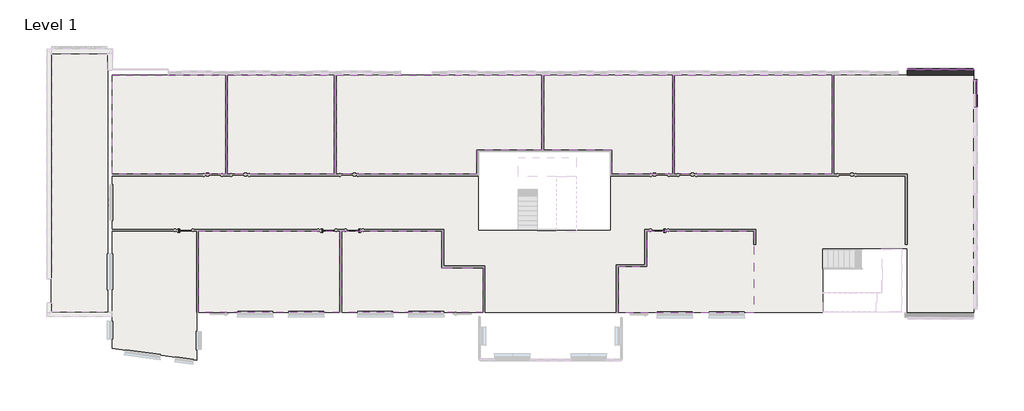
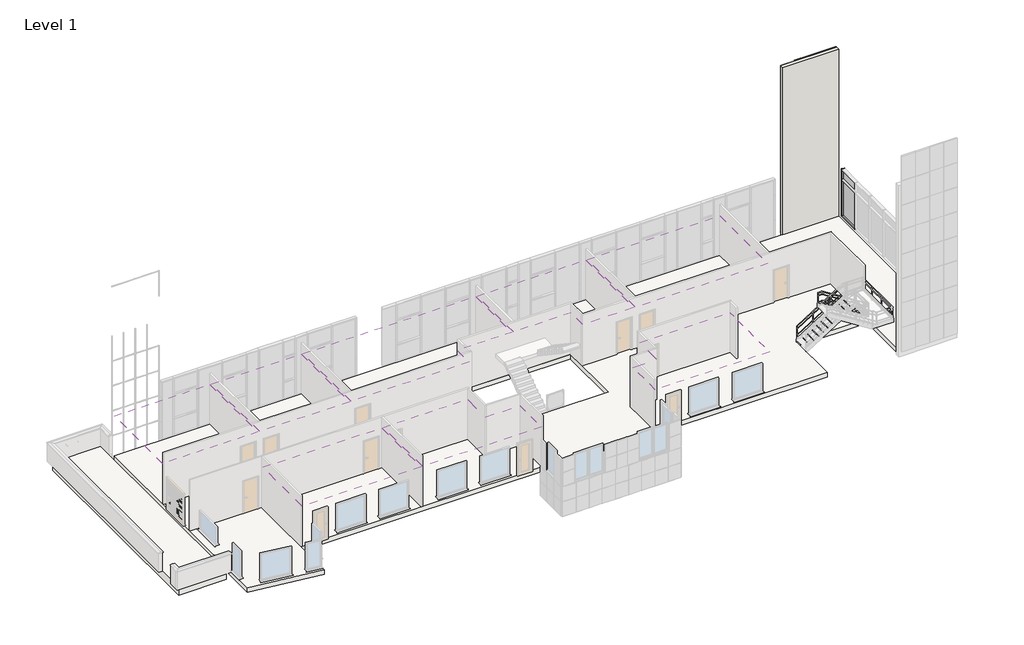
# One storey, part 7 of 10: 57 members, 30 plates, 8 coverings, 1 roof, 1 slab, 1 wall.
"""IFC4 building model written with IfcOpenShell, lengths in millimetres."""

from ifc_helpers import new_model, si_unit, frame, origin, place, context, project, spatial, polyline, outline, extrude, faceted_brep, transform, mapped, element, save
from components import rectangular_mullion_25x25mm_3039a083, rectangular_mullion_25x25mm_fa774699, rectangular_mullion_25x25mm_154c87ff, rectangular_mullion_25x25mm_39486c0a, rectangular_mullion_25x25mm_7ca17579, rectangular_mullion_25x25mm_da6cf454, rectangular_mullion_25x25mm_b3a713a3, rectangular_mullion_50x180mm_b21090a6, rectangular_mullion_50x180mm_1be9a22b, rectangular_mullion_50x180mm_f9fd6882, curtain_panels_solid_solid_panel_green_a5cb1202, system_panel_glazed_206f5d08, system_panel_glazed_f3953a00

model = new_model("IFC4")

# Units and contexts
model_context = context("Model", 3, world=origin())
ifc_project = project(units=[si_unit("LENGTHUNIT", "METRE", prefix="MILLI")], contexts=[model_context])

# Site, building, storey
site = spatial("IfcSite", under=ifc_project)
building = spatial("IfcBuilding", under=site)
storey = spatial("IfcBuildingStorey", under=building, Name="Level 1", Elevation=3750.0)

# Coverings
placement = place(None, origin())
element("IfcCovering", 1, ObjectType="600x600mm_Grid", at=placement, inside=storey, context=model_context, shape_type="SweptSolid", body=[
    extrude(outline(polyline([(-1429.2223222, 3884.8025486), (-1429.2223222, 9007.4946591), (4433.2942367, 9007.4946591), (4433.2942367, 3884.8025486), (-1429.2223222, 3884.8025486)])), frame((0.0, 0.0, 6350.0), z_axis=(0.0, 0.0, 1.0), x_axis=(1.0, 0.0, 0.0)), (0.0, 0.0, 1.0), 52.0),
])
element("IfcCovering", 2, ObjectType="600x600mm_Grid", at=placement, inside=storey, context=model_context, shape_type="SweptSolid", body=[
    extrude(outline(polyline([(4528.2942367, 9007.4946591), (10058.2942367, 9007.4946591), (10058.2942367, 3884.8025486), (4528.2942367, 3884.8025486), (4528.2942367, 9007.4946591)])), frame((0.0, 0.0, 6350.0), z_axis=(0.0, 0.0, 1.0), x_axis=(1.0, 0.0, 0.0)), (0.0, 0.0, 1.0), 52.0),
])
element("IfcCovering", 3, ObjectType="600x600mm_Grid", at=placement, inside=storey, context=model_context, shape_type="SweptSolid", body=[
    extrude(outline(polyline([(10153.2942367, 9007.4946591), (20770.7942367, 9007.4946591), (20770.7942367, 5143.5025486), (17410.7942367, 5143.5025486), (17410.7942367, 3884.8025486), (10153.2942367, 3884.8025486), (10153.2942367, 9007.4946591)])), frame((0.0, 0.0, 6350.0), z_axis=(0.0, 0.0, 1.0), x_axis=(1.0, 0.0, 0.0)), (0.0, 0.0, 1.0), 52.0),
])
element("IfcCovering", 4, ObjectType="600x600mm_Grid", at=placement, inside=storey, context=model_context, shape_type="SweptSolid", body=[
    extrude(outline(polyline([(20865.7942367, 9007.4946591), (27533.2942367, 9007.4946591), (27533.2942367, 3884.8025486), (24393.2942367, 3884.8025486), (24393.2942367, 5143.5025486), (20865.7942367, 5143.5025486), (20865.7942367, 9007.4946591)])), frame((0.0, 0.0, 6350.0), z_axis=(0.0, 0.0, 1.0), x_axis=(1.0, 0.0, 0.0)), (0.0, 0.0, 1.0), 52.0),
])
element("IfcCovering", 5, ObjectType="600x600mm_Grid", at=placement, inside=storey, context=model_context, shape_type="SweptSolid", body=[
    extrude(outline(polyline([(27628.2942367, 9007.4946591), (35770.7942367, 9007.4946591), (35770.7942367, 3884.8025486), (27628.2942367, 3884.8025486), (27628.2942367, 9007.4946591)])), frame((0.0, 0.0, 6350.0), z_axis=(0.0, 0.0, 1.0), x_axis=(1.0, 0.0, 0.0)), (0.0, 0.0, 1.0), 52.0),
])
element("IfcCovering", 6, ObjectType="600x600mm_Grid", at=placement, inside=storey, context=model_context, shape_type="SweptSolid", body=[
    extrude(outline(polyline([(10335.7942367, 939.9946591), (10335.7942367, -3259.5053409), (3030.7942367, -3259.5053409), (3030.7942367, 939.9946591), (10335.7942367, 939.9946591)])), frame((0.0, 0.0, 6350.0), z_axis=(0.0, 0.0, 1.0), x_axis=(1.0, 0.0, 0.0)), (0.0, 0.0, 1.0), 52.0),
])
element("IfcCovering", 7, ObjectType="600x600mm_Grid", at=placement, inside=storey, context=model_context, shape_type="SweptSolid", body=[
    extrude(outline(polyline([(17735.7942367, -3259.5053409), (10430.7942367, -3259.5053409), (10430.7942367, 939.9946591), (15610.7942367, 939.9946591), (15610.7942367, -955.0053409), (17735.7942367, -955.0053409), (17735.7942367, -3259.5053409)])), frame((0.0, 0.0, 6350.0), z_axis=(0.0, 0.0, 1.0), x_axis=(1.0, 0.0, 0.0)), (0.0, 0.0, 1.0), 52.0),
])
element("IfcCovering", 8, ObjectType="600x600mm_Grid", at=placement, inside=storey, context=model_context, shape_type="SweptSolid", body=[
    extrude(outline(polyline([(31736.4942371, 149.3025492), (31736.4942371, -3285.0053409), (24710.7942367, -3285.0053409), (24710.7942367, -895.6472731), (26193.2942367, -895.6472731), (26193.2942367, 939.9946591), (31736.4942371, 939.9946591), (31736.4942371, 149.3025492)])), frame((0.0, 0.0, 6350.0), z_axis=(0.0, 0.0, 1.0), x_axis=(1.0, 0.0, 0.0)), (0.0, 0.0, 1.0), 52.0),
])

# Members
rectangular_mullion_25x25mm_shape = rectangular_mullion_25x25mm_3039a083(model_context)
element("IfcMember", 9, ObjectType="Rectangular Mullion : 25x25mm", at=placement, inside=storey, context=model_context, shape_type="MappedRepresentation", body=[
    mapped(rectangular_mullion_25x25mm_shape, transform((42227.6692365, 9282.4946591, 3775.0), x_axis=(-1.0, 0.0, 0.0), y_axis=(0.0, 1.0, 0.0), z_axis=(0.0, 0.0, -1.0))),
])
element("IfcMember", 10, ObjectType="Rectangular Mullion : 25x25mm", at=placement, inside=storey, context=model_context, shape_type="MappedRepresentation", body=[
    mapped(rectangular_mullion_25x25mm_shape, transform((41374.5442367, 9282.4946591, 3775.0), x_axis=(-1.0, 0.0, 0.0), y_axis=(0.0, 1.0, 0.0), z_axis=(0.0, 0.0, -1.0))),
])
element("IfcMember", 11, ObjectType="Rectangular Mullion : 25x25mm", at=placement, inside=storey, context=model_context, shape_type="MappedRepresentation", body=[
    mapped(rectangular_mullion_25x25mm_shape, transform((40521.4192368, 9282.4946591, 3775.0), x_axis=(-1.0, 0.0, 0.0), y_axis=(0.0, 1.0, 0.0), z_axis=(0.0, 0.0, -1.0))),
])
rectangular_mullion_25x25mm_2_shape = rectangular_mullion_25x25mm_fa774699(model_context)
element("IfcMember", 12, ObjectType="Rectangular Mullion : 25x25mm", at=placement, inside=storey, context=model_context, shape_type="MappedRepresentation", body=[
    mapped(rectangular_mullion_25x25mm_2_shape, transform((42227.6692365, 9282.4946591, 5308.9285714), x_axis=(-1.0, 0.0, 0.0), y_axis=(0.0, 1.0, 0.0), z_axis=(0.0, 0.0, -1.0))),
])
element("IfcMember", 13, ObjectType="Rectangular Mullion : 25x25mm", at=placement, inside=storey, context=model_context, shape_type="MappedRepresentation", body=[
    mapped(rectangular_mullion_25x25mm_2_shape, transform((42227.6692365, 9282.4946591, 6855.3571429), x_axis=(-1.0, 0.0, 0.0), y_axis=(0.0, 1.0, 0.0), z_axis=(0.0, 0.0, -1.0))),
])
element("IfcMember", 14, ObjectType="Rectangular Mullion : 25x25mm", at=placement, inside=storey, context=model_context, shape_type="MappedRepresentation", body=[
    mapped(rectangular_mullion_25x25mm_2_shape, transform((42227.6692365, 9282.4946591, 8401.7857143), x_axis=(-1.0, 0.0, 0.0), y_axis=(0.0, 1.0, 0.0), z_axis=(0.0, 0.0, -1.0))),
])
element("IfcMember", 15, ObjectType="Rectangular Mullion : 25x25mm", at=placement, inside=storey, context=model_context, shape_type="MappedRepresentation", body=[
    mapped(rectangular_mullion_25x25mm_2_shape, transform((42227.6692365, 9282.4946591, 9948.2142857), x_axis=(-1.0, 0.0, 0.0), y_axis=(0.0, 1.0, 0.0), z_axis=(0.0, 0.0, -1.0))),
])
element("IfcMember", 16, ObjectType="Rectangular Mullion : 25x25mm", at=placement, inside=storey, context=model_context, shape_type="MappedRepresentation", body=[
    mapped(rectangular_mullion_25x25mm_2_shape, transform((41374.5442367, 9282.4946591, 5308.9285714), x_axis=(-1.0, 0.0, 0.0), y_axis=(0.0, 1.0, 0.0), z_axis=(0.0, 0.0, -1.0))),
])
element("IfcMember", 17, ObjectType="Rectangular Mullion : 25x25mm", at=placement, inside=storey, context=model_context, shape_type="MappedRepresentation", body=[
    mapped(rectangular_mullion_25x25mm_2_shape, transform((41374.5442367, 9282.4946591, 6855.3571429), x_axis=(-1.0, 0.0, 0.0), y_axis=(0.0, 1.0, 0.0), z_axis=(0.0, 0.0, -1.0))),
])
element("IfcMember", 18, ObjectType="Rectangular Mullion : 25x25mm", at=placement, inside=storey, context=model_context, shape_type="MappedRepresentation", body=[
    mapped(rectangular_mullion_25x25mm_2_shape, transform((41374.5442367, 9282.4946591, 8401.7857143), x_axis=(-1.0, 0.0, 0.0), y_axis=(0.0, 1.0, 0.0), z_axis=(0.0, 0.0, -1.0))),
])
element("IfcMember", 19, ObjectType="Rectangular Mullion : 25x25mm", at=placement, inside=storey, context=model_context, shape_type="MappedRepresentation", body=[
    mapped(rectangular_mullion_25x25mm_2_shape, transform((41374.5442367, 9282.4946591, 9948.2142857), x_axis=(-1.0, 0.0, 0.0), y_axis=(0.0, 1.0, 0.0), z_axis=(0.0, 0.0, -1.0))),
])
element("IfcMember", 20, ObjectType="Rectangular Mullion : 25x25mm", at=placement, inside=storey, context=model_context, shape_type="MappedRepresentation", body=[
    mapped(rectangular_mullion_25x25mm_2_shape, transform((40521.4192368, 9282.4946591, 5308.9285714), x_axis=(-1.0, 0.0, 0.0), y_axis=(0.0, 1.0, 0.0), z_axis=(0.0, 0.0, -1.0))),
])
element("IfcMember", 21, ObjectType="Rectangular Mullion : 25x25mm", at=placement, inside=storey, context=model_context, shape_type="MappedRepresentation", body=[
    mapped(rectangular_mullion_25x25mm_2_shape, transform((40521.4192368, 9282.4946591, 6855.3571429), x_axis=(-1.0, 0.0, 0.0), y_axis=(0.0, 1.0, 0.0), z_axis=(0.0, 0.0, -1.0))),
])
element("IfcMember", 22, ObjectType="Rectangular Mullion : 25x25mm", at=placement, inside=storey, context=model_context, shape_type="MappedRepresentation", body=[
    mapped(rectangular_mullion_25x25mm_2_shape, transform((40521.4192368, 9282.4946591, 8401.7857143), x_axis=(-1.0, 0.0, 0.0), y_axis=(0.0, 1.0, 0.0), z_axis=(0.0, 0.0, -1.0))),
])
element("IfcMember", 23, ObjectType="Rectangular Mullion : 25x25mm", at=placement, inside=storey, context=model_context, shape_type="MappedRepresentation", body=[
    mapped(rectangular_mullion_25x25mm_2_shape, transform((40521.4192368, 9282.4946591, 9948.2142857), x_axis=(-1.0, 0.0, 0.0), y_axis=(0.0, 1.0, 0.0), z_axis=(0.0, 0.0, -1.0))),
])
element("IfcMember", 24, ObjectType="Rectangular Mullion : 25x25mm", at=placement, inside=storey, context=model_context, shape_type="MappedRepresentation", body=[
    mapped(rectangular_mullion_25x25mm_2_shape, transform((42227.6692365, 9282.4946591, 11494.6428571), x_axis=(-1.0, 0.0, 0.0), y_axis=(0.0, 1.0, 0.0), z_axis=(0.0, 0.0, -1.0))),
])
element("IfcMember", 25, ObjectType="Rectangular Mullion : 25x25mm", at=placement, inside=storey, context=model_context, shape_type="MappedRepresentation", body=[
    mapped(rectangular_mullion_25x25mm_2_shape, transform((41374.5442367, 9282.4946591, 11494.6428571), x_axis=(-1.0, 0.0, 0.0), y_axis=(0.0, 1.0, 0.0), z_axis=(0.0, 0.0, -1.0))),
])
element("IfcMember", 26, ObjectType="Rectangular Mullion : 25x25mm", at=placement, inside=storey, context=model_context, shape_type="MappedRepresentation", body=[
    mapped(rectangular_mullion_25x25mm_2_shape, transform((40521.4192368, 9282.4946591, 11494.6428571), x_axis=(-1.0, 0.0, 0.0), y_axis=(0.0, 1.0, 0.0), z_axis=(0.0, 0.0, -1.0))),
])
element("IfcMember", 27, ObjectType="Rectangular Mullion : 25x25mm", at=placement, inside=storey, context=model_context, shape_type="MappedRepresentation", body=[
    mapped(rectangular_mullion_25x25mm_shape, transform((42227.6692365, 9282.4946591, 13041.0714286), x_axis=(-1.0, 0.0, 0.0), y_axis=(0.0, 1.0, 0.0), z_axis=(0.0, 0.0, -1.0))),
])
element("IfcMember", 28, ObjectType="Rectangular Mullion : 25x25mm", at=placement, inside=storey, context=model_context, shape_type="MappedRepresentation", body=[
    mapped(rectangular_mullion_25x25mm_shape, transform((41374.5442367, 9282.4946591, 13041.0714286), x_axis=(-1.0, 0.0, 0.0), y_axis=(0.0, 1.0, 0.0), z_axis=(0.0, 0.0, -1.0))),
])
element("IfcMember", 29, ObjectType="Rectangular Mullion : 25x25mm", at=placement, inside=storey, context=model_context, shape_type="MappedRepresentation", body=[
    mapped(rectangular_mullion_25x25mm_shape, transform((40521.4192368, 9282.4946591, 13041.0714286), x_axis=(-1.0, 0.0, 0.0), y_axis=(0.0, 1.0, 0.0), z_axis=(0.0, 0.0, -1.0))),
])
rectangular_mullion_25x25mm_3_shape = rectangular_mullion_25x25mm_154c87ff(model_context)
element("IfcMember", 30, ObjectType="Rectangular Mullion : 25x25mm", at=placement, inside=storey, context=model_context, shape_type="MappedRepresentation", body=[
    mapped(rectangular_mullion_25x25mm_3_shape, transform((43093.2942367, 9282.4946591, 14575.0), x_axis=(1.0, 0.0, 0.0), y_axis=(0.0, 1.0, 0.0), z_axis=(0.0, 0.0, 1.0))),
])
element("IfcMember", 31, ObjectType="Rectangular Mullion : 25x25mm", at=placement, inside=storey, context=model_context, shape_type="MappedRepresentation", body=[
    mapped(rectangular_mullion_25x25mm_3_shape, transform((43093.2942367, 9282.4946591, 5308.9285714), x_axis=(1.0, 0.0, 0.0), y_axis=(0.0, 1.0, 0.0), z_axis=(0.0, 0.0, 1.0))),
])
rectangular_mullion_25x25mm_4_shape = rectangular_mullion_25x25mm_39486c0a(model_context)
element("IfcMember", 32, ObjectType="Rectangular Mullion : 25x25mm", at=placement, inside=storey, context=model_context, shape_type="MappedRepresentation", body=[
    mapped(rectangular_mullion_25x25mm_4_shape, transform((43093.2942367, 9282.4946591, 6855.3571429), x_axis=(1.0, 0.0, 0.0), y_axis=(0.0, 1.0, 0.0), z_axis=(0.0, 0.0, 1.0))),
])
element("IfcMember", 33, ObjectType="Rectangular Mullion : 25x25mm", at=placement, inside=storey, context=model_context, shape_type="MappedRepresentation", body=[
    mapped(rectangular_mullion_25x25mm_4_shape, transform((43093.2942367, 9282.4946591, 8401.7857143), x_axis=(1.0, 0.0, 0.0), y_axis=(0.0, 1.0, 0.0), z_axis=(0.0, 0.0, 1.0))),
])
element("IfcMember", 34, ObjectType="Rectangular Mullion : 25x25mm", at=placement, inside=storey, context=model_context, shape_type="MappedRepresentation", body=[
    mapped(rectangular_mullion_25x25mm_4_shape, transform((43093.2942367, 9282.4946591, 9948.2142857), x_axis=(1.0, 0.0, 0.0), y_axis=(0.0, 1.0, 0.0), z_axis=(0.0, 0.0, 1.0))),
])
element("IfcMember", 35, ObjectType="Rectangular Mullion : 25x25mm", at=placement, inside=storey, context=model_context, shape_type="MappedRepresentation", body=[
    mapped(rectangular_mullion_25x25mm_4_shape, transform((43093.2942367, 9282.4946591, 11494.6428571), x_axis=(1.0, 0.0, 0.0), y_axis=(0.0, 1.0, 0.0), z_axis=(0.0, 0.0, 1.0))),
])
element("IfcMember", 36, ObjectType="Rectangular Mullion : 25x25mm", at=placement, inside=storey, context=model_context, shape_type="MappedRepresentation", body=[
    mapped(rectangular_mullion_25x25mm_4_shape, transform((43093.2942367, 9282.4946591, 13041.0714286), x_axis=(1.0, 0.0, 0.0), y_axis=(0.0, 1.0, 0.0), z_axis=(0.0, 0.0, 1.0))),
])
rectangular_mullion_25x25mm_5_shape = rectangular_mullion_25x25mm_7ca17579(model_context)
element("IfcMember", 37, ObjectType="Rectangular Mullion : 25x25mm", at=placement, inside=storey, context=model_context, shape_type="MappedRepresentation", body=[
    mapped(rectangular_mullion_25x25mm_5_shape, transform((42227.6692365, 9282.4946591, 14600.0), x_axis=(0.0, 0.0, 1.0), y_axis=(0.0, 1.0, 0.0), z_axis=(-1.0, 0.0, 0.0))),
])
rectangular_mullion_25x25mm_6_shape = rectangular_mullion_25x25mm_da6cf454(model_context)
element("IfcMember", 38, ObjectType="Rectangular Mullion : 25x25mm", at=placement, inside=storey, context=model_context, shape_type="MappedRepresentation", body=[
    mapped(rectangular_mullion_25x25mm_6_shape, transform((41374.5442367, 9282.4946591, 14600.0), x_axis=(0.0, 0.0, 1.0), y_axis=(0.0, 1.0, 0.0), z_axis=(-1.0, 0.0, 0.0))),
])
element("IfcMember", 39, ObjectType="Rectangular Mullion : 25x25mm", at=placement, inside=storey, context=model_context, shape_type="MappedRepresentation", body=[
    mapped(rectangular_mullion_25x25mm_6_shape, transform((40521.4192368, 9282.4946591, 14600.0), x_axis=(0.0, 0.0, 1.0), y_axis=(0.0, 1.0, 0.0), z_axis=(-1.0, 0.0, 0.0))),
])
element("IfcMember", 40, ObjectType="Rectangular Mullion : 25x25mm", at=placement, inside=storey, context=model_context, shape_type="MappedRepresentation", body=[
    mapped(rectangular_mullion_25x25mm_5_shape, transform((43093.2942367, 9282.4946591, 3750.0), x_axis=(0.0, 0.0, -1.0), y_axis=(0.0, 1.0, 0.0), z_axis=(1.0, 0.0, 0.0))),
])
element("IfcMember", 41, ObjectType="Rectangular Mullion : 25x25mm", at=placement, inside=storey, context=model_context, shape_type="MappedRepresentation", body=[
    mapped(rectangular_mullion_25x25mm_6_shape, transform((42227.6692365, 9282.4946591, 3750.0), x_axis=(0.0, 0.0, -1.0), y_axis=(0.0, 1.0, 0.0), z_axis=(1.0, 0.0, 0.0))),
])
element("IfcMember", 42, ObjectType="Rectangular Mullion : 25x25mm", at=placement, inside=storey, context=model_context, shape_type="MappedRepresentation", body=[
    mapped(rectangular_mullion_25x25mm_6_shape, transform((41374.5442367, 9282.4946591, 3750.0), x_axis=(0.0, 0.0, -1.0), y_axis=(0.0, 1.0, 0.0), z_axis=(1.0, 0.0, 0.0))),
])
element("IfcMember", 43, ObjectType="Rectangular Mullion : 25x25mm", at=placement, inside=storey, context=model_context, shape_type="MappedRepresentation", body=[
    mapped(rectangular_mullion_25x25mm_5_shape, transform((40521.4192368, 9282.4946591, 3750.0), x_axis=(0.0, 0.0, -1.0), y_axis=(0.0, 1.0, 0.0), z_axis=(1.0, 0.0, 0.0))),
])
rectangular_mullion_25x25mm_7_shape = rectangular_mullion_25x25mm_b3a713a3(model_context)
element("IfcMember", 44, ObjectType="Rectangular Mullion : 25x25mm", at=placement, inside=storey, context=model_context, shape_type="MappedRepresentation", body=[
    mapped(rectangular_mullion_25x25mm_7_shape, transform((42240.1692365, 9282.4946591, 5308.9285714), x_axis=(0.0, 0.0, 1.0), y_axis=(0.0, 1.0, 0.0), z_axis=(-1.0, 0.0, 0.0))),
])
element("IfcMember", 45, ObjectType="Rectangular Mullion : 25x25mm", at=placement, inside=storey, context=model_context, shape_type="MappedRepresentation", body=[
    mapped(rectangular_mullion_25x25mm_7_shape, transform((41387.0442367, 9282.4946591, 5308.9285714), x_axis=(0.0, 0.0, 1.0), y_axis=(0.0, 1.0, 0.0), z_axis=(-1.0, 0.0, 0.0))),
])
element("IfcMember", 46, ObjectType="Rectangular Mullion : 25x25mm", at=placement, inside=storey, context=model_context, shape_type="MappedRepresentation", body=[
    mapped(rectangular_mullion_25x25mm_7_shape, transform((40533.9192368, 9282.4946591, 5308.9285714), x_axis=(0.0, 0.0, 1.0), y_axis=(0.0, 1.0, 0.0), z_axis=(-1.0, 0.0, 0.0))),
])
element("IfcMember", 47, ObjectType="Rectangular Mullion : 25x25mm", at=placement, inside=storey, context=model_context, shape_type="MappedRepresentation", body=[
    mapped(rectangular_mullion_25x25mm_7_shape, transform((42240.1692365, 9282.4946591, 6855.3571429), x_axis=(0.0, 0.0, 1.0), y_axis=(0.0, 1.0, 0.0), z_axis=(-1.0, 0.0, 0.0))),
])
element("IfcMember", 48, ObjectType="Rectangular Mullion : 25x25mm", at=placement, inside=storey, context=model_context, shape_type="MappedRepresentation", body=[
    mapped(rectangular_mullion_25x25mm_7_shape, transform((41387.0442367, 9282.4946591, 6855.3571429), x_axis=(0.0, 0.0, 1.0), y_axis=(0.0, 1.0, 0.0), z_axis=(-1.0, 0.0, 0.0))),
])
element("IfcMember", 49, ObjectType="Rectangular Mullion : 25x25mm", at=placement, inside=storey, context=model_context, shape_type="MappedRepresentation", body=[
    mapped(rectangular_mullion_25x25mm_7_shape, transform((40533.9192368, 9282.4946591, 6855.3571429), x_axis=(0.0, 0.0, 1.0), y_axis=(0.0, 1.0, 0.0), z_axis=(-1.0, 0.0, 0.0))),
])
element("IfcMember", 50, ObjectType="Rectangular Mullion : 25x25mm", at=placement, inside=storey, context=model_context, shape_type="MappedRepresentation", body=[
    mapped(rectangular_mullion_25x25mm_7_shape, transform((42240.1692365, 9282.4946591, 8401.7857143), x_axis=(0.0, 0.0, 1.0), y_axis=(0.0, 1.0, 0.0), z_axis=(-1.0, 0.0, 0.0))),
])
element("IfcMember", 51, ObjectType="Rectangular Mullion : 25x25mm", at=placement, inside=storey, context=model_context, shape_type="MappedRepresentation", body=[
    mapped(rectangular_mullion_25x25mm_7_shape, transform((41387.0442367, 9282.4946591, 8401.7857143), x_axis=(0.0, 0.0, 1.0), y_axis=(0.0, 1.0, 0.0), z_axis=(-1.0, 0.0, 0.0))),
])
element("IfcMember", 52, ObjectType="Rectangular Mullion : 25x25mm", at=placement, inside=storey, context=model_context, shape_type="MappedRepresentation", body=[
    mapped(rectangular_mullion_25x25mm_7_shape, transform((40533.9192368, 9282.4946591, 8401.7857143), x_axis=(0.0, 0.0, 1.0), y_axis=(0.0, 1.0, 0.0), z_axis=(-1.0, 0.0, 0.0))),
])
element("IfcMember", 53, ObjectType="Rectangular Mullion : 25x25mm", at=placement, inside=storey, context=model_context, shape_type="MappedRepresentation", body=[
    mapped(rectangular_mullion_25x25mm_7_shape, transform((42240.1692365, 9282.4946591, 9948.2142857), x_axis=(0.0, 0.0, 1.0), y_axis=(0.0, 1.0, 0.0), z_axis=(-1.0, 0.0, 0.0))),
])
element("IfcMember", 54, ObjectType="Rectangular Mullion : 25x25mm", at=placement, inside=storey, context=model_context, shape_type="MappedRepresentation", body=[
    mapped(rectangular_mullion_25x25mm_7_shape, transform((41387.0442367, 9282.4946591, 9948.2142857), x_axis=(0.0, 0.0, 1.0), y_axis=(0.0, 1.0, 0.0), z_axis=(-1.0, 0.0, 0.0))),
])
element("IfcMember", 55, ObjectType="Rectangular Mullion : 25x25mm", at=placement, inside=storey, context=model_context, shape_type="MappedRepresentation", body=[
    mapped(rectangular_mullion_25x25mm_7_shape, transform((40533.9192368, 9282.4946591, 9948.2142857), x_axis=(0.0, 0.0, 1.0), y_axis=(0.0, 1.0, 0.0), z_axis=(-1.0, 0.0, 0.0))),
])
element("IfcMember", 56, ObjectType="Rectangular Mullion : 25x25mm", at=placement, inside=storey, context=model_context, shape_type="MappedRepresentation", body=[
    mapped(rectangular_mullion_25x25mm_7_shape, transform((42240.1692365, 9282.4946591, 11494.6428571), x_axis=(0.0, 0.0, 1.0), y_axis=(0.0, 1.0, 0.0), z_axis=(-1.0, 0.0, 0.0))),
])
element("IfcMember", 57, ObjectType="Rectangular Mullion : 25x25mm", at=placement, inside=storey, context=model_context, shape_type="MappedRepresentation", body=[
    mapped(rectangular_mullion_25x25mm_7_shape, transform((41387.0442367, 9282.4946591, 11494.6428571), x_axis=(0.0, 0.0, 1.0), y_axis=(0.0, 1.0, 0.0), z_axis=(-1.0, 0.0, 0.0))),
])
element("IfcMember", 58, ObjectType="Rectangular Mullion : 25x25mm", at=placement, inside=storey, context=model_context, shape_type="MappedRepresentation", body=[
    mapped(rectangular_mullion_25x25mm_7_shape, transform((40533.9192368, 9282.4946591, 11494.6428571), x_axis=(0.0, 0.0, 1.0), y_axis=(0.0, 1.0, 0.0), z_axis=(-1.0, 0.0, 0.0))),
])
element("IfcMember", 59, ObjectType="Rectangular Mullion : 25x25mm", at=placement, inside=storey, context=model_context, shape_type="MappedRepresentation", body=[
    mapped(rectangular_mullion_25x25mm_7_shape, transform((42240.1692365, 9282.4946591, 13041.0714286), x_axis=(0.0, 0.0, 1.0), y_axis=(0.0, 1.0, 0.0), z_axis=(-1.0, 0.0, 0.0))),
])
element("IfcMember", 60, ObjectType="Rectangular Mullion : 25x25mm", at=placement, inside=storey, context=model_context, shape_type="MappedRepresentation", body=[
    mapped(rectangular_mullion_25x25mm_7_shape, transform((41387.0442367, 9282.4946591, 13041.0714286), x_axis=(0.0, 0.0, 1.0), y_axis=(0.0, 1.0, 0.0), z_axis=(-1.0, 0.0, 0.0))),
])
element("IfcMember", 61, ObjectType="Rectangular Mullion : 25x25mm", at=placement, inside=storey, context=model_context, shape_type="MappedRepresentation", body=[
    mapped(rectangular_mullion_25x25mm_7_shape, transform((40533.9192368, 9282.4946591, 13041.0714286), x_axis=(0.0, 0.0, 1.0), y_axis=(0.0, 1.0, 0.0), z_axis=(-1.0, 0.0, 0.0))),
])
element("IfcMember", 62, ObjectType="Rectangular Mullion : 25x25mm", at=placement, inside=storey, context=model_context, shape_type="MappedRepresentation", body=[
    mapped(rectangular_mullion_25x25mm_7_shape, transform((39680.7942367, 9282.4946591, 13041.0714286), x_axis=(0.0, 0.0, 1.0), y_axis=(0.0, 1.0, 0.0), z_axis=(-1.0, 0.0, 0.0))),
])
rectangular_mullion_50x180mm_shape = rectangular_mullion_50x180mm_b21090a6(model_context)
element("IfcMember", 63, ObjectType="Rectangular Mullion : 50x180mm", at=placement, inside=storey, context=model_context, shape_type="MappedRepresentation", body=[
    mapped(rectangular_mullion_50x180mm_shape, transform((43193.2942367, 8772.4946591, 6300.0), x_axis=(0.0, 1.0, 0.0), y_axis=(-1.0, 0.0, 0.0), z_axis=(0.0, 0.0, 1.0))),
])
rectangular_mullion_50x180mm_2_shape = rectangular_mullion_50x180mm_1be9a22b(model_context)
element("IfcMember", 64, ObjectType="Rectangular Mullion : 50x180mm", at=placement, inside=storey, context=model_context, shape_type="MappedRepresentation", body=[
    mapped(rectangular_mullion_50x180mm_2_shape, transform((43193.2942367, 8722.4946591, 3900.0), x_axis=(0.0, 0.0, -1.0), y_axis=(-1.0, 0.0, 0.0), z_axis=(0.0, 1.0, 0.0))),
])
rectangular_mullion_50x180mm_3_shape = rectangular_mullion_50x180mm_f9fd6882(model_context)
element("IfcMember", 65, ObjectType="Rectangular Mullion : 50x180mm", at=placement, inside=storey, context=model_context, shape_type="MappedRepresentation", body=[
    mapped(rectangular_mullion_50x180mm_3_shape, transform((43193.2942367, 8772.4946591, 6965.0), x_axis=(0.0, 1.0, 0.0), y_axis=(-1.0, 0.0, 0.0), z_axis=(0.0, 0.0, 1.0))),
])

# Plates
curtain_panels_solid_solid_panel_green_shape = curtain_panels_solid_solid_panel_green_a5cb1202(model_context)
element("IfcPlate", 66, ObjectType="Curtain_Panels_Solid : Solid_Panel_Green", at=placement, inside=storey, context=model_context, shape_type="MappedRepresentation", body=[
    mapped(curtain_panels_solid_solid_panel_green_shape, transform((42654.2317366, 9282.4946591, 3775.0), x_axis=(-1.0, 0.0, 0.0), y_axis=(0.0, -1.0, 0.0), z_axis=(0.0, 0.0, 1.0))),
])
element("IfcPlate", 67, ObjectType="Curtain_Panels_Solid : Solid_Panel_Green", at=placement, inside=storey, context=model_context, shape_type="MappedRepresentation", body=[
    mapped(curtain_panels_solid_solid_panel_green_shape, transform((41801.1067366, 9282.4946591, 3775.0), x_axis=(-1.0, 0.0, 0.0), y_axis=(0.0, -1.0, 0.0), z_axis=(0.0, 0.0, 1.0))),
])
element("IfcPlate", 68, ObjectType="Curtain_Panels_Solid : Solid_Panel_Green", at=placement, inside=storey, context=model_context, shape_type="MappedRepresentation", body=[
    mapped(curtain_panels_solid_solid_panel_green_shape, transform((40947.9817368, 9282.4946591, 3775.0), x_axis=(-1.0, 0.0, 0.0), y_axis=(0.0, -1.0, 0.0), z_axis=(0.0, 0.0, 1.0))),
])
element("IfcPlate", 69, ObjectType="Curtain_Panels_Solid : Solid_Panel_Green", at=placement, inside=storey, context=model_context, shape_type="MappedRepresentation", body=[
    mapped(curtain_panels_solid_solid_panel_green_shape, transform((40094.8567368, 9282.4946591, 3775.0), x_axis=(-1.0, 0.0, 0.0), y_axis=(0.0, -1.0, 0.0), z_axis=(0.0, 0.0, 1.0))),
])
element("IfcPlate", 70, ObjectType="Curtain_Panels_Solid : Solid_Panel_Green", at=placement, inside=storey, context=model_context, shape_type="MappedRepresentation", body=[
    mapped(curtain_panels_solid_solid_panel_green_shape, transform((42654.2317366, 9282.4946591, 5321.4285714), x_axis=(-1.0, 0.0, 0.0), y_axis=(0.0, -1.0, 0.0), z_axis=(0.0, 0.0, 1.0))),
])
element("IfcPlate", 71, ObjectType="Curtain_Panels_Solid : Solid_Panel_Green", at=placement, inside=storey, context=model_context, shape_type="MappedRepresentation", body=[
    mapped(curtain_panels_solid_solid_panel_green_shape, transform((41801.1067366, 9282.4946591, 5321.4285714), x_axis=(-1.0, 0.0, 0.0), y_axis=(0.0, -1.0, 0.0), z_axis=(0.0, 0.0, 1.0))),
])
element("IfcPlate", 72, ObjectType="Curtain_Panels_Solid : Solid_Panel_Green", at=placement, inside=storey, context=model_context, shape_type="MappedRepresentation", body=[
    mapped(curtain_panels_solid_solid_panel_green_shape, transform((40947.9817368, 9282.4946591, 5321.4285714), x_axis=(-1.0, 0.0, 0.0), y_axis=(0.0, -1.0, 0.0), z_axis=(0.0, 0.0, 1.0))),
])
element("IfcPlate", 73, ObjectType="Curtain_Panels_Solid : Solid_Panel_Green", at=placement, inside=storey, context=model_context, shape_type="MappedRepresentation", body=[
    mapped(curtain_panels_solid_solid_panel_green_shape, transform((40094.8567368, 9282.4946591, 5321.4285714), x_axis=(-1.0, 0.0, 0.0), y_axis=(0.0, -1.0, 0.0), z_axis=(0.0, 0.0, 1.0))),
])
element("IfcPlate", 74, ObjectType="Curtain_Panels_Solid : Solid_Panel_Green", at=placement, inside=storey, context=model_context, shape_type="MappedRepresentation", body=[
    mapped(curtain_panels_solid_solid_panel_green_shape, transform((42654.2317366, 9282.4946591, 6867.8571429), x_axis=(-1.0, 0.0, 0.0), y_axis=(0.0, -1.0, 0.0), z_axis=(0.0, 0.0, 1.0))),
])
element("IfcPlate", 75, ObjectType="Curtain_Panels_Solid : Solid_Panel_Green", at=placement, inside=storey, context=model_context, shape_type="MappedRepresentation", body=[
    mapped(curtain_panels_solid_solid_panel_green_shape, transform((41801.1067366, 9282.4946591, 6867.8571429), x_axis=(-1.0, 0.0, 0.0), y_axis=(0.0, -1.0, 0.0), z_axis=(0.0, 0.0, 1.0))),
])
element("IfcPlate", 76, ObjectType="Curtain_Panels_Solid : Solid_Panel_Green", at=placement, inside=storey, context=model_context, shape_type="MappedRepresentation", body=[
    mapped(curtain_panels_solid_solid_panel_green_shape, transform((40947.9817368, 9282.4946591, 6867.8571429), x_axis=(-1.0, 0.0, 0.0), y_axis=(0.0, -1.0, 0.0), z_axis=(0.0, 0.0, 1.0))),
])
element("IfcPlate", 77, ObjectType="Curtain_Panels_Solid : Solid_Panel_Green", at=placement, inside=storey, context=model_context, shape_type="MappedRepresentation", body=[
    mapped(curtain_panels_solid_solid_panel_green_shape, transform((40094.8567368, 9282.4946591, 6867.8571429), x_axis=(-1.0, 0.0, 0.0), y_axis=(0.0, -1.0, 0.0), z_axis=(0.0, 0.0, 1.0))),
])
element("IfcPlate", 78, ObjectType="Curtain_Panels_Solid : Solid_Panel_Green", at=placement, inside=storey, context=model_context, shape_type="MappedRepresentation", body=[
    mapped(curtain_panels_solid_solid_panel_green_shape, transform((42654.2317366, 9282.4946591, 8414.2857143), x_axis=(-1.0, 0.0, 0.0), y_axis=(0.0, -1.0, 0.0), z_axis=(0.0, 0.0, 1.0))),
])
element("IfcPlate", 79, ObjectType="Curtain_Panels_Solid : Solid_Panel_Green", at=placement, inside=storey, context=model_context, shape_type="MappedRepresentation", body=[
    mapped(curtain_panels_solid_solid_panel_green_shape, transform((41801.1067366, 9282.4946591, 8414.2857143), x_axis=(-1.0, 0.0, 0.0), y_axis=(0.0, -1.0, 0.0), z_axis=(0.0, 0.0, 1.0))),
])
element("IfcPlate", 80, ObjectType="Curtain_Panels_Solid : Solid_Panel_Green", at=placement, inside=storey, context=model_context, shape_type="MappedRepresentation", body=[
    mapped(curtain_panels_solid_solid_panel_green_shape, transform((40947.9817368, 9282.4946591, 8414.2857143), x_axis=(-1.0, 0.0, 0.0), y_axis=(0.0, -1.0, 0.0), z_axis=(0.0, 0.0, 1.0))),
])
element("IfcPlate", 81, ObjectType="Curtain_Panels_Solid : Solid_Panel_Green", at=placement, inside=storey, context=model_context, shape_type="MappedRepresentation", body=[
    mapped(curtain_panels_solid_solid_panel_green_shape, transform((40094.8567368, 9282.4946591, 8414.2857143), x_axis=(-1.0, 0.0, 0.0), y_axis=(0.0, -1.0, 0.0), z_axis=(0.0, 0.0, 1.0))),
])
element("IfcPlate", 82, ObjectType="Curtain_Panels_Solid : Solid_Panel_Green", at=placement, inside=storey, context=model_context, shape_type="MappedRepresentation", body=[
    mapped(curtain_panels_solid_solid_panel_green_shape, transform((42654.2317366, 9282.4946591, 9960.7142857), x_axis=(-1.0, 0.0, 0.0), y_axis=(0.0, -1.0, 0.0), z_axis=(0.0, 0.0, 1.0))),
])
element("IfcPlate", 83, ObjectType="Curtain_Panels_Solid : Solid_Panel_Green", at=placement, inside=storey, context=model_context, shape_type="MappedRepresentation", body=[
    mapped(curtain_panels_solid_solid_panel_green_shape, transform((41801.1067366, 9282.4946591, 9960.7142857), x_axis=(-1.0, 0.0, 0.0), y_axis=(0.0, -1.0, 0.0), z_axis=(0.0, 0.0, 1.0))),
])
element("IfcPlate", 84, ObjectType="Curtain_Panels_Solid : Solid_Panel_Green", at=placement, inside=storey, context=model_context, shape_type="MappedRepresentation", body=[
    mapped(curtain_panels_solid_solid_panel_green_shape, transform((40947.9817368, 9282.4946591, 9960.7142857), x_axis=(-1.0, 0.0, 0.0), y_axis=(0.0, -1.0, 0.0), z_axis=(0.0, 0.0, 1.0))),
])
element("IfcPlate", 85, ObjectType="Curtain_Panels_Solid : Solid_Panel_Green", at=placement, inside=storey, context=model_context, shape_type="MappedRepresentation", body=[
    mapped(curtain_panels_solid_solid_panel_green_shape, transform((40094.8567368, 9282.4946591, 9960.7142857), x_axis=(-1.0, 0.0, 0.0), y_axis=(0.0, -1.0, 0.0), z_axis=(0.0, 0.0, 1.0))),
])
element("IfcPlate", 86, ObjectType="Curtain_Panels_Solid : Solid_Panel_Green", at=placement, inside=storey, context=model_context, shape_type="MappedRepresentation", body=[
    mapped(curtain_panels_solid_solid_panel_green_shape, transform((42654.2317366, 9282.4946591, 11507.1428571), x_axis=(-1.0, 0.0, 0.0), y_axis=(0.0, -1.0, 0.0), z_axis=(0.0, 0.0, 1.0))),
])
element("IfcPlate", 87, ObjectType="Curtain_Panels_Solid : Solid_Panel_Green", at=placement, inside=storey, context=model_context, shape_type="MappedRepresentation", body=[
    mapped(curtain_panels_solid_solid_panel_green_shape, transform((41801.1067366, 9282.4946591, 11507.1428571), x_axis=(-1.0, 0.0, 0.0), y_axis=(0.0, -1.0, 0.0), z_axis=(0.0, 0.0, 1.0))),
])
element("IfcPlate", 88, ObjectType="Curtain_Panels_Solid : Solid_Panel_Green", at=placement, inside=storey, context=model_context, shape_type="MappedRepresentation", body=[
    mapped(curtain_panels_solid_solid_panel_green_shape, transform((40947.9817368, 9282.4946591, 11507.1428571), x_axis=(-1.0, 0.0, 0.0), y_axis=(0.0, -1.0, 0.0), z_axis=(0.0, 0.0, 1.0))),
])
element("IfcPlate", 89, ObjectType="Curtain_Panels_Solid : Solid_Panel_Green", at=placement, inside=storey, context=model_context, shape_type="MappedRepresentation", body=[
    mapped(curtain_panels_solid_solid_panel_green_shape, transform((40094.8567368, 9282.4946591, 11507.1428571), x_axis=(-1.0, 0.0, 0.0), y_axis=(0.0, -1.0, 0.0), z_axis=(0.0, 0.0, 1.0))),
])
element("IfcPlate", 90, ObjectType="Curtain_Panels_Solid : Solid_Panel_Green", at=placement, inside=storey, context=model_context, shape_type="MappedRepresentation", body=[
    mapped(curtain_panels_solid_solid_panel_green_shape, transform((42654.2317366, 9282.4946591, 13053.5714286), x_axis=(-1.0, 0.0, 0.0), y_axis=(0.0, -1.0, 0.0), z_axis=(0.0, 0.0, 1.0))),
])
element("IfcPlate", 91, ObjectType="Curtain_Panels_Solid : Solid_Panel_Green", at=placement, inside=storey, context=model_context, shape_type="MappedRepresentation", body=[
    mapped(curtain_panels_solid_solid_panel_green_shape, transform((41801.1067366, 9282.4946591, 13053.5714286), x_axis=(-1.0, 0.0, 0.0), y_axis=(0.0, -1.0, 0.0), z_axis=(0.0, 0.0, 1.0))),
])
element("IfcPlate", 92, ObjectType="Curtain_Panels_Solid : Solid_Panel_Green", at=placement, inside=storey, context=model_context, shape_type="MappedRepresentation", body=[
    mapped(curtain_panels_solid_solid_panel_green_shape, transform((40947.9817368, 9282.4946591, 13053.5714286), x_axis=(-1.0, 0.0, 0.0), y_axis=(0.0, -1.0, 0.0), z_axis=(0.0, 0.0, 1.0))),
])
element("IfcPlate", 93, ObjectType="Curtain_Panels_Solid : Solid_Panel_Green", at=placement, inside=storey, context=model_context, shape_type="MappedRepresentation", body=[
    mapped(curtain_panels_solid_solid_panel_green_shape, transform((40094.8567368, 9282.4946591, 13053.5714286), x_axis=(-1.0, 0.0, 0.0), y_axis=(0.0, -1.0, 0.0), z_axis=(0.0, 0.0, 1.0))),
])
system_panel_glazed_shape = system_panel_glazed_206f5d08(model_context)
element("IfcPlate", 94, ObjectType="System Panel : Glazed", at=placement, inside=storey, context=model_context, shape_type="MappedRepresentation", body=[
    mapped(system_panel_glazed_shape, transform((43193.2942367, 8018.588409, 3950.0), x_axis=(0.0, -1.0, 0.0), y_axis=(1.0, 0.0, 0.0), z_axis=(0.0, 0.0, 1.0))),
])
system_panel_glazed_2_shape = system_panel_glazed_f3953a00(model_context)
element("IfcPlate", 95, ObjectType="System Panel : Glazed", at=placement, inside=storey, context=model_context, shape_type="MappedRepresentation", body=[
    mapped(system_panel_glazed_2_shape, transform((43193.2942367, 8018.588409, 6325.0), x_axis=(0.0, -1.0, 0.0), y_axis=(1.0, 0.0, 0.0), z_axis=(0.0, 0.0, 1.0))),
])

# Roof
element("IfcRoof", 96, ObjectType="Roof_Pitched-50SS-220Ins-20MPan-225Purl", at=placement, inside=storey, context=model_context, shape_type="SweptSolid", body=[
    extrude(outline(polyline([(-4569.2057633, 10124.9946591), (-1644.2223222, 10124.9946591), (-1644.2223222, -3260.0053409), (-4569.2057633, -3260.0053409), (-4569.2057633, 10124.9946591)])), frame((0.0, 0.0, 3235.0), z_axis=(0.0, 0.0, 1.0), x_axis=(1.0, 0.0, 0.0)), (0.0, 0.0, 1.0), 515.0),
])

# Slab
element("IfcSlab", 97, ObjectType="Flr-Int-300mm", at=placement, inside=storey, context=model_context, shape_type="Brep", body=[
    faceted_brep([(43093.2942367, 9007.4946591, 3450.0), (43093.2942367, -3285.0053409, 3450.0), (39655.7942367, -3285.0053409, 3450.0), (39655.7942367, 41.8025492, 3450.0), (35285.7942367, 41.8025492, 3450.0), (35285.7942367, -3259.5053409, 3450.0), (2935.2942367, -3259.5053409, 3450.0), (2935.2942367, -5743.2655529, 3450.0), (-1429.2223222, -5129.8727526, 3450.0), (-1429.2223222, 9007.4946591, 3450.0), (24298.2942367, 5048.5025486, 3450.0), (17505.7942367, 5048.5025486, 3450.0), (17505.7942367, 999.3527269, 3450.0), (24298.2942367, 999.3527269, 3450.0), (43093.2942367, 9007.4946591, 3750.0), (-1429.2223222, 9007.4946591, 3750.0), (-1429.2223222, -5129.8727526, 3750.0), (2935.2942367, -5743.2655529, 3750.0), (2935.2942367, -3259.5053409, 3750.0), (3650.7942367, -3259.5053409, 3750.0), (4560.7942367, -3259.5053409, 3750.0), (16205.7942367, -3259.5053409, 3750.0), (17115.7942367, -3259.5053409, 3750.0), (35285.7942367, -3259.5053409, 3750.0), (35285.7942367, 41.8025492, 3750.0), (39655.7942367, 41.8025492, 3750.0), (39655.7942367, -3285.0053409, 3750.0), (43093.2942367, -3285.0053409, 3750.0), (24298.2942367, 5048.5025486, 3750.0), (24298.2942367, 999.3527269, 3750.0), (17505.7942367, 999.3527269, 3750.0), (17505.7942367, 5048.5025486, 3750.0)], [[[0, 1, 2, 3, 4, 5, 6, 7, 8, 9], [10, 11, 12, 13]], [[14, 15, 16, 17, 18, 19, 20, 21, 22, 23, 24, 25, 26, 27], [28, 29, 30, 31]], [[1, 0, 14, 27]], [[9, 8, 16, 15]], [[0, 9, 15, 14]], [[2, 1, 27, 26]], [[3, 2, 26, 25]], [[4, 3, 25, 24]], [[5, 4, 24, 23]], [[10, 13, 29, 28]], [[11, 10, 28, 31]], [[6, 5, 23, 22, 21, 20, 19, 18]], [[12, 11, 31, 30]], [[13, 12, 30, 29]], [[7, 6, 18, 17]], [[8, 7, 17, 16]]]),
])

# Wall
element("IfcWall", 98, ObjectType="Wall-Ext_250-Concrete", at=placement, inside=storey, context=model_context, shape_type="SweptSolid", body=[
    extrude(outline(polyline([(43093.2942367, 9007.4946591), (39655.7942367, 9007.4946591), (39655.7942367, 9257.4946591), (43093.2942367, 9257.4946591), (43093.2942367, 9007.4946591)])), frame((0.0, 0.0, 3450.0), z_axis=(0.0, 0.0, 1.0), x_axis=(1.0, 0.0, 0.0)), (0.0, 0.0, 1.0), 11150.0),
])

save(model, "model.ifc")
